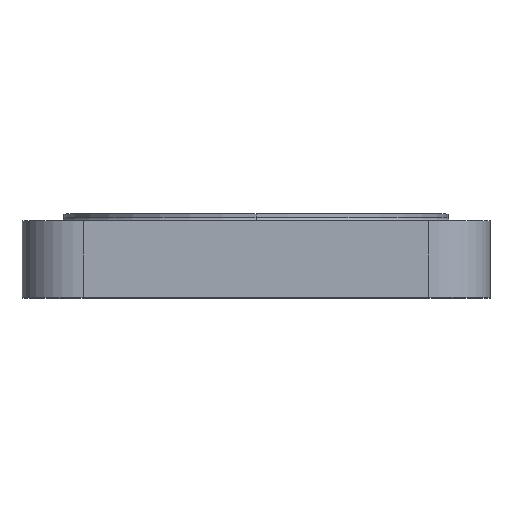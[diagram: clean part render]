
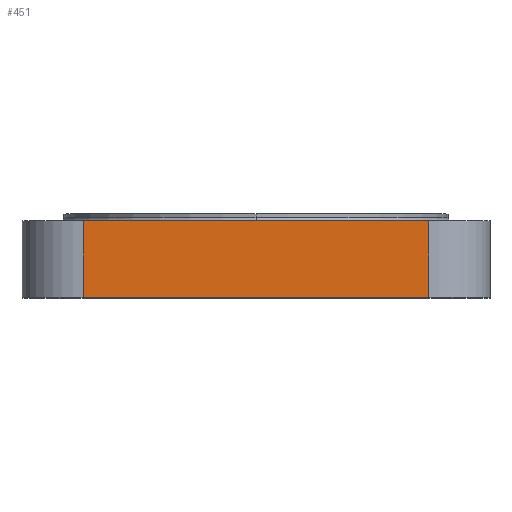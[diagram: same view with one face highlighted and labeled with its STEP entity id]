
A CAD part, top view. The second image highlights one B-rep face of the part: STEP entity #451.
In plain terms, the highlighted planar face has unit normal (0, 0, 1).
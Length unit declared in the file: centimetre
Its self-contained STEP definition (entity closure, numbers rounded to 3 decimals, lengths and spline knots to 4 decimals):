
#20 = ORIENTED_EDGE ( 'NONE', *, *, #61, .T. ) ;
#24 = CARTESIAN_POINT ( 'NONE',  ( -4.95, 2.2, 6.7 ) ) ;
#45 = CARTESIAN_POINT ( 'NONE',  ( 0., 2.2, 6.7 ) ) ;
#46 = EDGE_CURVE ( 'NONE', #636, #232, #338, .T. ) ;
#61 = EDGE_CURVE ( 'NONE', #113, #425, #690, .T. ) ;
#78 = EDGE_CURVE ( 'NONE', #232, #425, #421, .T. ) ;
#110 = CARTESIAN_POINT ( 'NONE',  ( 4.95, 1.1, 6.7 ) ) ;
#113 = VERTEX_POINT ( 'NONE', #257 ) ;
#116 = FACE_OUTER_BOUND ( 'NONE', #812, .T. ) ;
#128 = AXIS2_PLACEMENT_3D ( 'NONE', #679, #252, #726 ) ;
#148 = VECTOR ( 'NONE', #315, 100. ) ;
#169 = CARTESIAN_POINT ( 'NONE',  ( -4.95, 1.1, 6.7 ) ) ;
#170 = PLANE ( 'NONE',  #128 ) ;
#174 = CARTESIAN_POINT ( 'NONE',  ( 4.95, 2.2, 6.7 ) ) ;
#207 = ORIENTED_EDGE ( 'NONE', *, *, #46, .F. ) ;
#228 = DIRECTION ( 'NONE',  ( -1., 0., 0. ) ) ;
#230 = VECTOR ( 'NONE', #630, 100. ) ;
#232 = VERTEX_POINT ( 'NONE', #24 ) ;
#244 = CARTESIAN_POINT ( 'NONE',  ( -4.95, 0., 6.7 ) ) ;
#252 = DIRECTION ( 'NONE',  ( 0., 0., -1. ) ) ;
#257 = CARTESIAN_POINT ( 'NONE',  ( 4.95, 0., 6.7 ) ) ;
#315 = DIRECTION ( 'NONE',  ( 0., 1., 0. ) ) ;
#334 = ORIENTED_EDGE ( 'NONE', *, *, #577, .F. ) ;
#338 = LINE ( 'NONE', #169, #148 ) ;
#376 = VECTOR ( 'NONE', #228, 100. ) ;
#421 = LINE ( 'NONE', #45, #230 ) ;
#425 = VERTEX_POINT ( 'NONE', #174 ) ;
#451 = ADVANCED_FACE ( 'NONE', ( #116 ), #170, .F. ) ;
#472 = DIRECTION ( 'NONE',  ( 0., 1., 0. ) ) ;
#524 = VECTOR ( 'NONE', #472, 100. ) ;
#577 = EDGE_CURVE ( 'NONE', #113, #636, #737, .T. ) ;
#630 = DIRECTION ( 'NONE',  ( 1., 0., 0. ) ) ;
#636 = VERTEX_POINT ( 'NONE', #244 ) ;
#679 = CARTESIAN_POINT ( 'NONE',  ( 4.95, 0., 6.7 ) ) ;
#690 = LINE ( 'NONE', #110, #524 ) ;
#726 = DIRECTION ( 'NONE',  ( -1., 0., 0. ) ) ;
#737 = LINE ( 'NONE', #823, #376 ) ;
#812 = EDGE_LOOP ( 'NONE', ( #20, #840, #207, #334 ) ) ;
#823 = CARTESIAN_POINT ( 'NONE',  ( 0., 0., 6.7 ) ) ;
#840 = ORIENTED_EDGE ( 'NONE', *, *, #78, .F. ) ;
